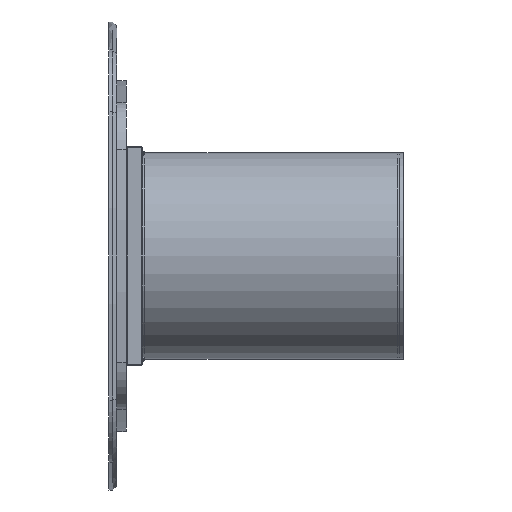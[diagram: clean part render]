
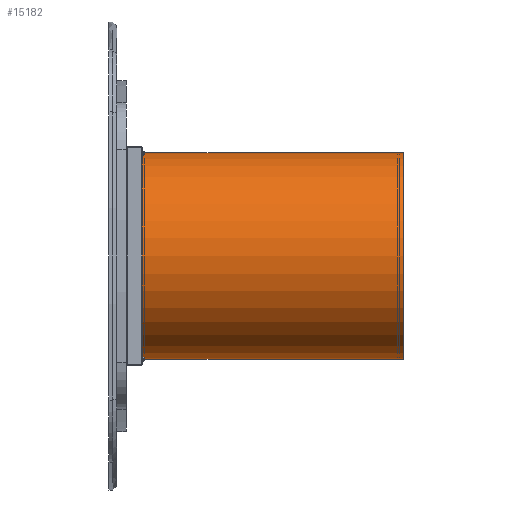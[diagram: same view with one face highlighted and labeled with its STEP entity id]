
A CAD part, left-side view. The second image highlights one B-rep face of the part: STEP entity #15182.
In plain terms, the highlighted cylindrical face has radius 265 mm (diameter 530 mm), a partial arc.
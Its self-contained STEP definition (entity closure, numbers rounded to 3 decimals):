
#387 = DIRECTION ( 'NONE',  ( 0., 0., -1. ) ) ;
#1658 = EDGE_LOOP ( 'NONE', ( #14909, #3884, #5288, #17170 ) ) ;
#2538 = VERTEX_POINT ( 'NONE', #15430 ) ;
#3101 = VERTEX_POINT ( 'NONE', #14548 ) ;
#3687 = DIRECTION ( 'NONE',  ( 0., 0., 1. ) ) ;
#3867 = CIRCLE ( 'NONE', #16720, 265. ) ;
#3884 = ORIENTED_EDGE ( 'NONE', *, *, #13161, .F. ) ;
#3945 = LINE ( 'NONE', #9509, #9907 ) ;
#4111 = CARTESIAN_POINT ( 'NONE',  ( 0., 670., -265. ) ) ;
#4965 = CARTESIAN_POINT ( 'NONE',  ( 0., 0., 0. ) ) ;
#5288 = ORIENTED_EDGE ( 'NONE', *, *, #9610, .T. ) ;
#5417 = EDGE_CURVE ( 'NONE', #17388, #2538, #3945, .T. ) ;
#5927 = CIRCLE ( 'NONE', #8846, 265. ) ;
#5986 = CARTESIAN_POINT ( 'NONE',  ( 0., 670., 0. ) ) ;
#6109 = DIRECTION ( 'NONE',  ( 0., 1., 0. ) ) ;
#7473 = CARTESIAN_POINT ( 'NONE',  ( 0., 670., 0. ) ) ;
#8683 = VERTEX_POINT ( 'NONE', #15634 ) ;
#8846 = AXIS2_PLACEMENT_3D ( 'NONE', #4965, #10631, #3687 ) ;
#9509 = CARTESIAN_POINT ( 'NONE',  ( 0., 670., 265. ) ) ;
#9610 = EDGE_CURVE ( 'NONE', #8683, #3101, #9863, .T. ) ;
#9863 = LINE ( 'NONE', #4111, #15573 ) ;
#9896 = FACE_OUTER_BOUND ( 'NONE', #1658, .T. ) ;
#9907 = VECTOR ( 'NONE', #16571, 1000. ) ;
#10631 = DIRECTION ( 'NONE',  ( 0., 1., 0. ) ) ;
#10872 = CARTESIAN_POINT ( 'NONE',  ( 0., 670., 265. ) ) ;
#11143 = DIRECTION ( 'NONE',  ( 0., -1., 0. ) ) ;
#11492 = DIRECTION ( 'NONE',  ( 0., 0., 1. ) ) ;
#12081 = EDGE_CURVE ( 'NONE', #3101, #2538, #5927, .T. ) ;
#12109 = AXIS2_PLACEMENT_3D ( 'NONE', #5986, #12830, #387 ) ;
#12654 = CYLINDRICAL_SURFACE ( 'NONE', #12109, 265. ) ;
#12830 = DIRECTION ( 'NONE',  ( 0., -1., 0. ) ) ;
#13161 = EDGE_CURVE ( 'NONE', #8683, #17388, #3867, .T. ) ;
#14548 = CARTESIAN_POINT ( 'NONE',  ( 0., 0., -265. ) ) ;
#14909 = ORIENTED_EDGE ( 'NONE', *, *, #5417, .F. ) ;
#15182 = ADVANCED_FACE ( 'NONE', ( #9896 ), #12654, .T. ) ;
#15430 = CARTESIAN_POINT ( 'NONE',  ( 0., 0., 265. ) ) ;
#15573 = VECTOR ( 'NONE', #11143, 1000. ) ;
#15634 = CARTESIAN_POINT ( 'NONE',  ( 0., 670., -265. ) ) ;
#16571 = DIRECTION ( 'NONE',  ( 0., -1., 0. ) ) ;
#16720 = AXIS2_PLACEMENT_3D ( 'NONE', #7473, #6109, #11492 ) ;
#17170 = ORIENTED_EDGE ( 'NONE', *, *, #12081, .T. ) ;
#17388 = VERTEX_POINT ( 'NONE', #10872 ) ;
